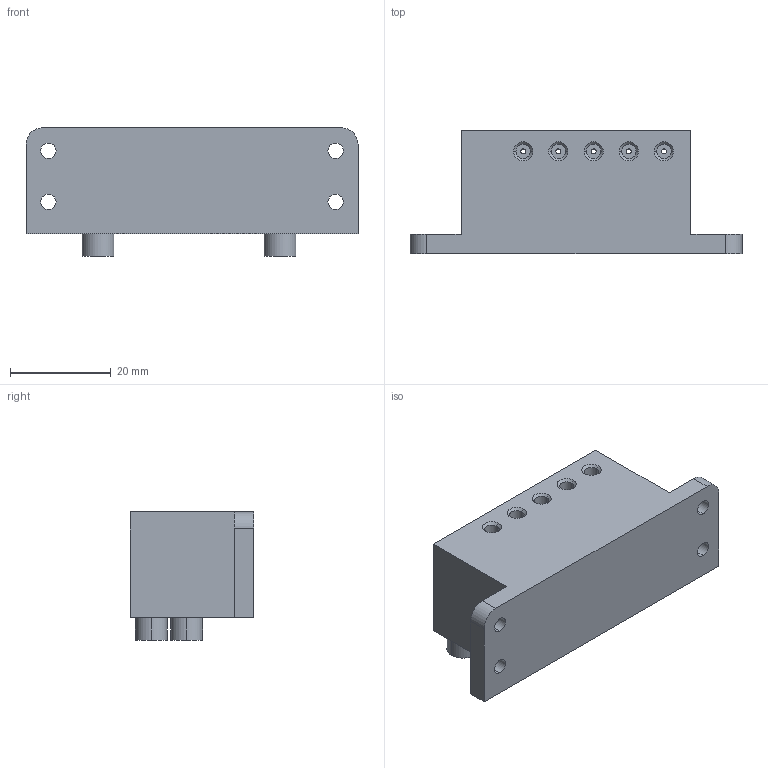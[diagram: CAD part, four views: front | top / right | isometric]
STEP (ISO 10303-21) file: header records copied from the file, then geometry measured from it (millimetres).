
FILE_DESCRIPTION (( 'STEP AP214' ), '1' );
FILE_NAME ('Manifold, Input Desktop, Biolink R01.STEP', '2026-07-30T16:15:56', ( '' ), ( '' ), 'SwSTEP 2.0', 'SolidWorks 2025', '' );
FILE_SCHEMA (( 'AUTOMOTIVE_DESIGN' ));
Length unit declared in the file: inch
Products named in the file (1): Manifold, Input Desktop, Biolink R01
Bounding box: 66.04 x 24.51 x 25.53 mm (x, y, z)
Volume: 25042 mm3; surface area: 7066.4 mm2
Topology: 1 solids, 1 shells, 82 faces, 188 edges, 122 vertices
Faces by surface type: cylinder 48, plane 24, cone 10
Entity records: 2421 total; most frequent: DIRECTION 460, CARTESIAN_POINT 393, ORIENTED_EDGE 376, AXIS2_PLACEMENT_3D 189, EDGE_CURVE 188, VERTEX_POINT 122, EDGE_LOOP 114, CIRCLE 106
